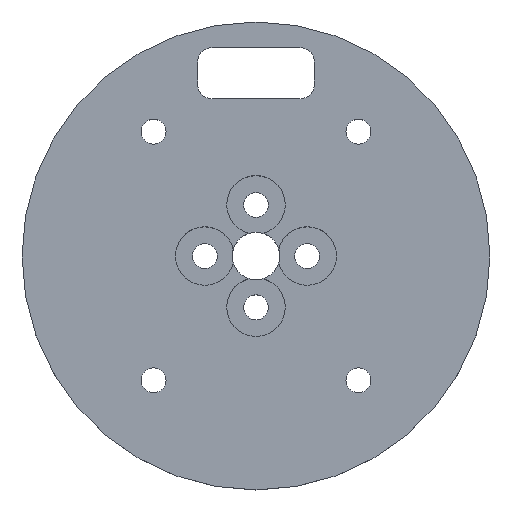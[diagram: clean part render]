
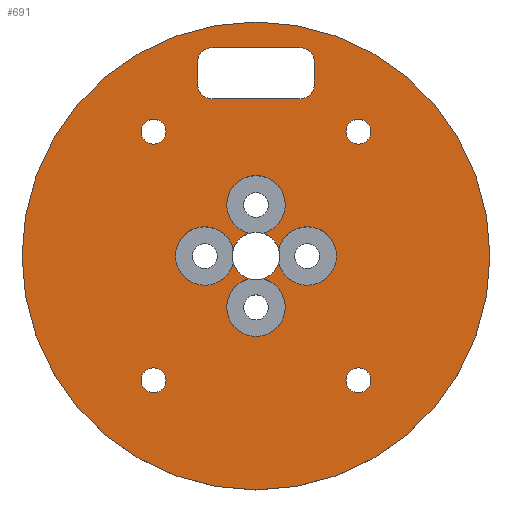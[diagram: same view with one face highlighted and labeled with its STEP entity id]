
A CAD part, top view. The second image highlights one B-rep face of the part: STEP entity #691.
In plain terms, the highlighted planar face has unit normal (0, 0, 1).
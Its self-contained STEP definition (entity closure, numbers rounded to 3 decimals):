
#26=FACE_BOUND('',#234,.T.);
#27=FACE_BOUND('',#235,.T.);
#28=FACE_BOUND('',#236,.T.);
#29=FACE_BOUND('',#237,.T.);
#30=FACE_BOUND('',#238,.T.);
#31=FACE_BOUND('',#239,.T.);
#50=PLANE('',#789);
#63=LINE('',#1090,#102);
#66=LINE('',#1099,#105);
#70=LINE('',#1110,#109);
#71=LINE('',#1112,#110);
#102=VECTOR('',#860,10.);
#105=VECTOR('',#869,10.);
#109=VECTOR('',#883,10.);
#110=VECTOR('',#886,10.);
#183=FACE_OUTER_BOUND('',#233,.T.);
#233=EDGE_LOOP('',(#598));
#234=EDGE_LOOP('',(#599,#600,#601,#602,#603,#604,#605,#606));
#235=EDGE_LOOP('',(#607));
#236=EDGE_LOOP('',(#608));
#237=EDGE_LOOP('',(#609));
#238=EDGE_LOOP('',(#610));
#239=EDGE_LOOP('',(#611,#612,#613,#614,#615,#616,#617,#618));
#272=CIRCLE('',#734,2.);
#273=CIRCLE('',#737,2.);
#274=CIRCLE('',#740,2.);
#275=CIRCLE('',#742,2.);
#284=CIRCLE('',#762,1.7);
#285=CIRCLE('',#764,1.7);
#286=CIRCLE('',#766,1.7);
#287=CIRCLE('',#768,1.7);
#290=CIRCLE('',#772,3.25);
#292=CIRCLE('',#774,3.25);
#294=CIRCLE('',#776,3.25);
#296=CIRCLE('',#778,3.25);
#300=CIRCLE('',#784,4.);
#302=CIRCLE('',#787,4.);
#304=CIRCLE('',#790,32.);
#305=CIRCLE('',#791,4.);
#306=CIRCLE('',#792,4.);
#331=VERTEX_POINT('',#1082);
#332=VERTEX_POINT('',#1083);
#333=VERTEX_POINT('',#1088);
#334=VERTEX_POINT('',#1092);
#335=VERTEX_POINT('',#1093);
#336=VERTEX_POINT('',#1098);
#337=VERTEX_POINT('',#1102);
#338=VERTEX_POINT('',#1106);
#347=VERTEX_POINT('',#1142);
#348=VERTEX_POINT('',#1146);
#349=VERTEX_POINT('',#1150);
#350=VERTEX_POINT('',#1154);
#354=VERTEX_POINT('',#1164);
#355=VERTEX_POINT('',#1166);
#358=VERTEX_POINT('',#1172);
#359=VERTEX_POINT('',#1174);
#362=VERTEX_POINT('',#1180);
#363=VERTEX_POINT('',#1182);
#366=VERTEX_POINT('',#1188);
#367=VERTEX_POINT('',#1190);
#370=VERTEX_POINT('',#1206);
#396=EDGE_CURVE('',#331,#332,#272,.T.);
#400=EDGE_CURVE('',#332,#333,#63,.T.);
#401=EDGE_CURVE('',#334,#335,#273,.T.);
#404=EDGE_CURVE('',#336,#334,#66,.T.);
#406=EDGE_CURVE('',#337,#336,#274,.T.);
#408=EDGE_CURVE('',#333,#338,#275,.T.);
#410=EDGE_CURVE('',#338,#337,#70,.T.);
#411=EDGE_CURVE('',#335,#331,#71,.T.);
#425=EDGE_CURVE('',#347,#347,#284,.T.);
#427=EDGE_CURVE('',#348,#348,#285,.T.);
#429=EDGE_CURVE('',#349,#349,#286,.T.);
#431=EDGE_CURVE('',#350,#350,#287,.T.);
#436=EDGE_CURVE('',#355,#354,#290,.T.);
#440=EDGE_CURVE('',#359,#358,#292,.T.);
#444=EDGE_CURVE('',#363,#362,#294,.T.);
#448=EDGE_CURVE('',#367,#366,#296,.T.);
#453=EDGE_CURVE('',#354,#367,#300,.T.);
#455=EDGE_CURVE('',#358,#355,#302,.T.);
#457=EDGE_CURVE('',#370,#370,#304,.T.);
#458=EDGE_CURVE('',#366,#363,#305,.T.);
#459=EDGE_CURVE('',#362,#359,#306,.T.);
#598=ORIENTED_EDGE('',*,*,#457,.T.);
#599=ORIENTED_EDGE('',*,*,#401,.T.);
#600=ORIENTED_EDGE('',*,*,#411,.T.);
#601=ORIENTED_EDGE('',*,*,#396,.T.);
#602=ORIENTED_EDGE('',*,*,#400,.T.);
#603=ORIENTED_EDGE('',*,*,#408,.T.);
#604=ORIENTED_EDGE('',*,*,#410,.T.);
#605=ORIENTED_EDGE('',*,*,#406,.T.);
#606=ORIENTED_EDGE('',*,*,#404,.T.);
#607=ORIENTED_EDGE('',*,*,#425,.T.);
#608=ORIENTED_EDGE('',*,*,#427,.T.);
#609=ORIENTED_EDGE('',*,*,#429,.T.);
#610=ORIENTED_EDGE('',*,*,#431,.T.);
#611=ORIENTED_EDGE('',*,*,#448,.T.);
#612=ORIENTED_EDGE('',*,*,#458,.T.);
#613=ORIENTED_EDGE('',*,*,#444,.T.);
#614=ORIENTED_EDGE('',*,*,#459,.T.);
#615=ORIENTED_EDGE('',*,*,#440,.T.);
#616=ORIENTED_EDGE('',*,*,#455,.T.);
#617=ORIENTED_EDGE('',*,*,#436,.T.);
#618=ORIENTED_EDGE('',*,*,#453,.T.);
#691=ADVANCED_FACE('',(#183,#26,#27,#28,#29,#30,#31),#50,.T.);
#734=AXIS2_PLACEMENT_3D('',#1084,#853,#854);
#737=AXIS2_PLACEMENT_3D('',#1094,#863,#864);
#740=AXIS2_PLACEMENT_3D('',#1103,#873,#874);
#742=AXIS2_PLACEMENT_3D('',#1107,#878,#879);
#762=AXIS2_PLACEMENT_3D('',#1144,#926,#927);
#764=AXIS2_PLACEMENT_3D('',#1148,#931,#932);
#766=AXIS2_PLACEMENT_3D('',#1152,#936,#937);
#768=AXIS2_PLACEMENT_3D('',#1156,#941,#942);
#772=AXIS2_PLACEMENT_3D('',#1167,#951,#952);
#774=AXIS2_PLACEMENT_3D('',#1175,#957,#958);
#776=AXIS2_PLACEMENT_3D('',#1183,#963,#964);
#778=AXIS2_PLACEMENT_3D('',#1191,#969,#970);
#784=AXIS2_PLACEMENT_3D('',#1200,#982,#983);
#787=AXIS2_PLACEMENT_3D('',#1203,#988,#989);
#789=AXIS2_PLACEMENT_3D('',#1205,#992,#993);
#790=AXIS2_PLACEMENT_3D('',#1207,#994,#995);
#791=AXIS2_PLACEMENT_3D('',#1208,#996,#997);
#792=AXIS2_PLACEMENT_3D('',#1209,#998,#999);
#853=DIRECTION('center_axis',(0.,0.,-1.));
#854=DIRECTION('ref_axis',(-0.707,-0.707,0.));
#860=DIRECTION('',(0.,1.,0.));
#863=DIRECTION('center_axis',(0.,0.,-1.));
#864=DIRECTION('ref_axis',(0.707,-0.707,0.));
#869=DIRECTION('',(0.,-1.,0.));
#873=DIRECTION('center_axis',(0.,0.,-1.));
#874=DIRECTION('ref_axis',(0.707,0.707,0.));
#878=DIRECTION('center_axis',(0.,0.,-1.));
#879=DIRECTION('ref_axis',(-0.707,0.707,0.));
#883=DIRECTION('',(1.,0.,0.));
#886=DIRECTION('',(-1.,0.,0.));
#926=DIRECTION('center_axis',(0.,0.,-1.));
#927=DIRECTION('ref_axis',(1.,0.,0.));
#931=DIRECTION('center_axis',(0.,0.,-1.));
#932=DIRECTION('ref_axis',(1.,0.,0.));
#936=DIRECTION('center_axis',(0.,0.,-1.));
#937=DIRECTION('ref_axis',(1.,0.,0.));
#941=DIRECTION('center_axis',(0.,0.,-1.));
#942=DIRECTION('ref_axis',(1.,0.,0.));
#951=DIRECTION('center_axis',(0.,0.,-1.));
#952=DIRECTION('ref_axis',(1.,0.,0.));
#957=DIRECTION('center_axis',(0.,0.,-1.));
#958=DIRECTION('ref_axis',(1.,0.,0.));
#963=DIRECTION('center_axis',(0.,0.,-1.));
#964=DIRECTION('ref_axis',(1.,0.,0.));
#969=DIRECTION('center_axis',(0.,0.,-1.));
#970=DIRECTION('ref_axis',(1.,0.,0.));
#982=DIRECTION('center_axis',(0.,0.,-1.));
#983=DIRECTION('ref_axis',(1.,0.,0.));
#988=DIRECTION('center_axis',(0.,0.,-1.));
#989=DIRECTION('ref_axis',(1.,0.,0.));
#992=DIRECTION('center_axis',(0.,0.,1.));
#993=DIRECTION('ref_axis',(1.,0.,0.));
#994=DIRECTION('center_axis',(0.,0.,1.));
#995=DIRECTION('ref_axis',(1.,0.,0.));
#996=DIRECTION('center_axis',(0.,0.,-1.));
#997=DIRECTION('ref_axis',(1.,0.,0.));
#998=DIRECTION('center_axis',(0.,0.,-1.));
#999=DIRECTION('ref_axis',(1.,0.,0.));
#1082=CARTESIAN_POINT('',(-6.,21.5,84.));
#1083=CARTESIAN_POINT('',(-8.,23.5,84.));
#1084=CARTESIAN_POINT('Origin',(-6.,23.5,84.));
#1088=CARTESIAN_POINT('',(-8.,26.5,84.));
#1090=CARTESIAN_POINT('',(-8.,14.25,84.));
#1092=CARTESIAN_POINT('',(8.,23.5,84.));
#1093=CARTESIAN_POINT('',(6.,21.5,84.));
#1094=CARTESIAN_POINT('Origin',(6.,23.5,84.));
#1098=CARTESIAN_POINT('',(8.,26.5,84.));
#1099=CARTESIAN_POINT('',(8.,10.75,84.));
#1102=CARTESIAN_POINT('',(6.,28.5,84.));
#1103=CARTESIAN_POINT('Origin',(6.,26.5,84.));
#1106=CARTESIAN_POINT('',(-6.,28.5,84.));
#1107=CARTESIAN_POINT('Origin',(-6.,26.5,84.));
#1110=CARTESIAN_POINT('',(4.,28.5,84.));
#1112=CARTESIAN_POINT('',(-4.,21.5,84.));
#1142=CARTESIAN_POINT('',(12.3,17.,84.));
#1144=CARTESIAN_POINT('Origin',(14.,17.,84.));
#1146=CARTESIAN_POINT('',(-15.7,17.,84.));
#1148=CARTESIAN_POINT('Origin',(-14.,17.,84.));
#1150=CARTESIAN_POINT('',(12.3,-17.,84.));
#1152=CARTESIAN_POINT('Origin',(14.,-17.,84.));
#1154=CARTESIAN_POINT('',(-15.7,-17.,84.));
#1156=CARTESIAN_POINT('Origin',(-14.,-17.,84.));
#1164=CARTESIAN_POINT('',(-3.112,-0.938,84.));
#1166=CARTESIAN_POINT('',(-0.938,-3.112,84.));
#1167=CARTESIAN_POINT('Origin',(0.,0.,84.));
#1172=CARTESIAN_POINT('',(0.938,-3.112,84.));
#1174=CARTESIAN_POINT('',(3.112,-0.938,84.));
#1175=CARTESIAN_POINT('Origin',(0.,0.,84.));
#1180=CARTESIAN_POINT('',(3.112,0.938,84.));
#1182=CARTESIAN_POINT('',(0.938,3.112,84.));
#1183=CARTESIAN_POINT('Origin',(0.,0.,84.));
#1188=CARTESIAN_POINT('',(-0.938,3.112,84.));
#1190=CARTESIAN_POINT('',(-3.112,0.938,84.));
#1191=CARTESIAN_POINT('Origin',(0.,0.,84.));
#1200=CARTESIAN_POINT('Origin',(-7.,0.,84.));
#1203=CARTESIAN_POINT('Origin',(0.,-7.,84.));
#1205=CARTESIAN_POINT('Origin',(0.,0.,84.));
#1206=CARTESIAN_POINT('',(-32.,0.,84.));
#1207=CARTESIAN_POINT('Origin',(0.,0.,84.));
#1208=CARTESIAN_POINT('Origin',(0.,7.,84.));
#1209=CARTESIAN_POINT('Origin',(7.,0.,84.));
